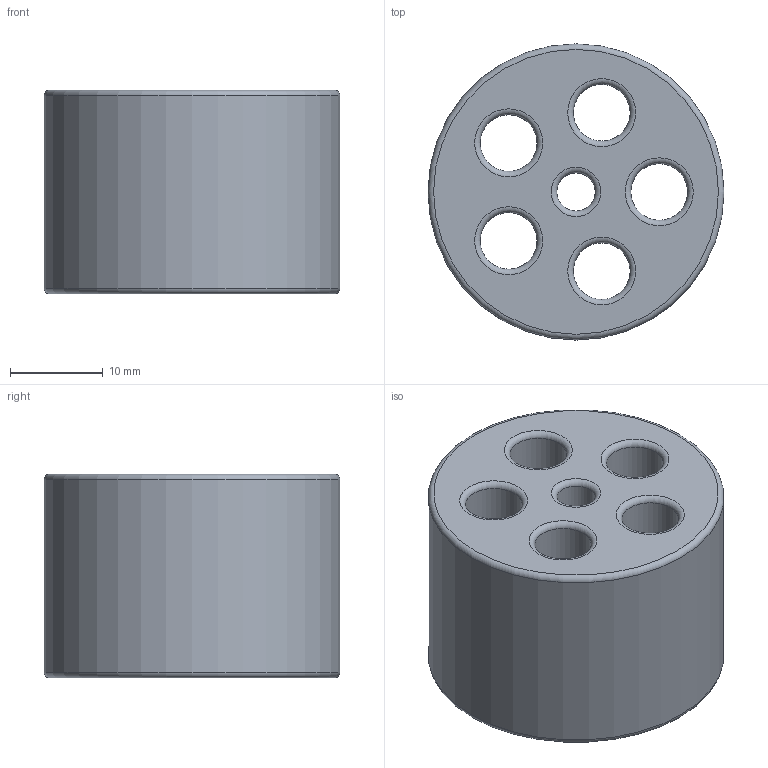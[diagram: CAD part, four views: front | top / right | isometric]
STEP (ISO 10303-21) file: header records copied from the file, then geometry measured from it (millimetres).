
FILE_DESCRIPTION(('Open CASCADE Model'),'2;1');
FILE_NAME('Open CASCADE Shape Model','2026-11-19T06:39:29',('Author'),( 'Open CASCADE'),'Open CASCADE STEP processor 8.0','Open CASCADE 8.0' ,'Unknown');
FILE_SCHEMA(('AUTOMOTIVE_DESIGN { 1 0 10303 214 1 1 1 1 }'));
Length unit declared in the file: millimetre
Products named in the file (1): Open CASCADE STEP translator 8.0 16
Bounding box: 32 x 32 x 22 mm (x, y, z)
Volume: 14095.1 mm3; surface area: 5801.5 mm2
Topology: 1 solids, 1 shells, 23 faces, 49 edges, 28 vertices
Faces by surface type: torus 14, cylinder 7, plane 2
Full cylindrical faces by diameter (mm): 4.15 x1, 6.15 x5, 32 x1
Entity records: 1276 total; most frequent: CARTESIAN_POINT 227, DIRECTION 209, ORIENTED_EDGE 98, PCURVE 98, DEFINITIONAL_REPRESENTATION 98, AXIS2_PLACEMENT_3D 66, LINE 63, VECTOR 63
